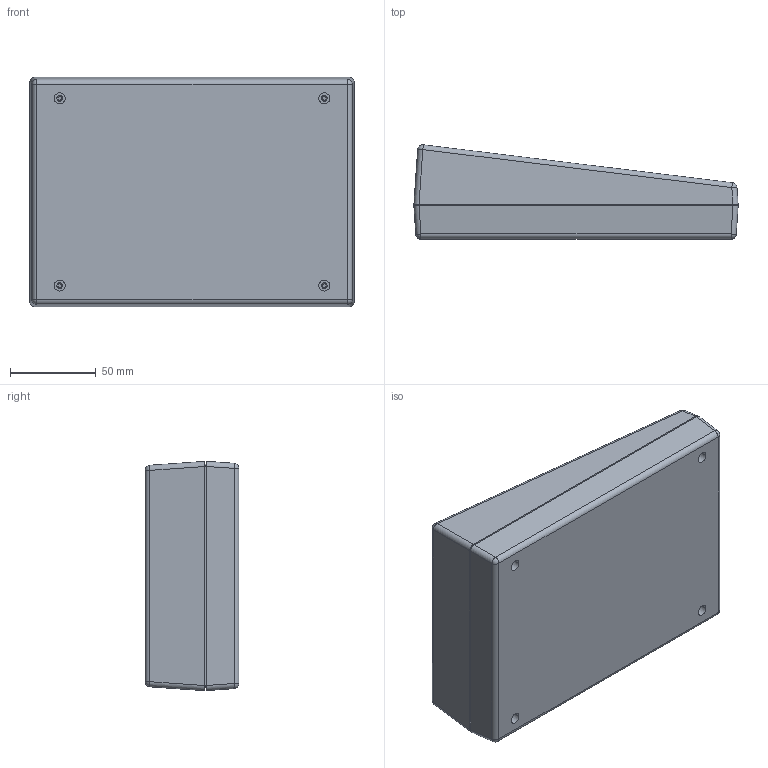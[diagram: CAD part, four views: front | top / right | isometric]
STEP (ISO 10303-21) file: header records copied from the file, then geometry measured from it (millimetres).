
FILE_DESCRIPTION (( 'STEP AP203' ), '1' );
FILE_NAME ('DT-120.STEP', '2017-05-18T07:32:58', ( '' ), ( '' ), 'SwSTEP 2.0', 'SolidWorks 2015', '' );
FILE_SCHEMA (( 'CONFIG_CONTROL_DESIGN' ));
Length unit declared in the file: millimetre
Products named in the file (3): DT-120-P-2-10276; DT-120-P-1-10274; DT-120
Assembly tree (2 placements, depth 2):
  DT-120
    DT-120-P-2-10276
    DT-120-P-1-10274
Bounding box: 188.81 x 54.71 x 133.55 mm (x, y, z)
Volume: 194958.9 mm3; surface area: 159722.6 mm2
Topology: 2 solids, 2 shells, 645 faces, 1566 edges, 1018 vertices
Faces by surface type: plane 279, cylinder 268, cone 54, torus 20, bspline 16, sphere 8
Entity records: 20277 total; most frequent: CARTESIAN_POINT 5276, ORIENTED_EDGE 3116, DIRECTION 2894, EDGE_CURVE 1558, VERTEX_POINT 1016, VECTOR 986, LINE 986, AXIS2_PLACEMENT_3D 954
